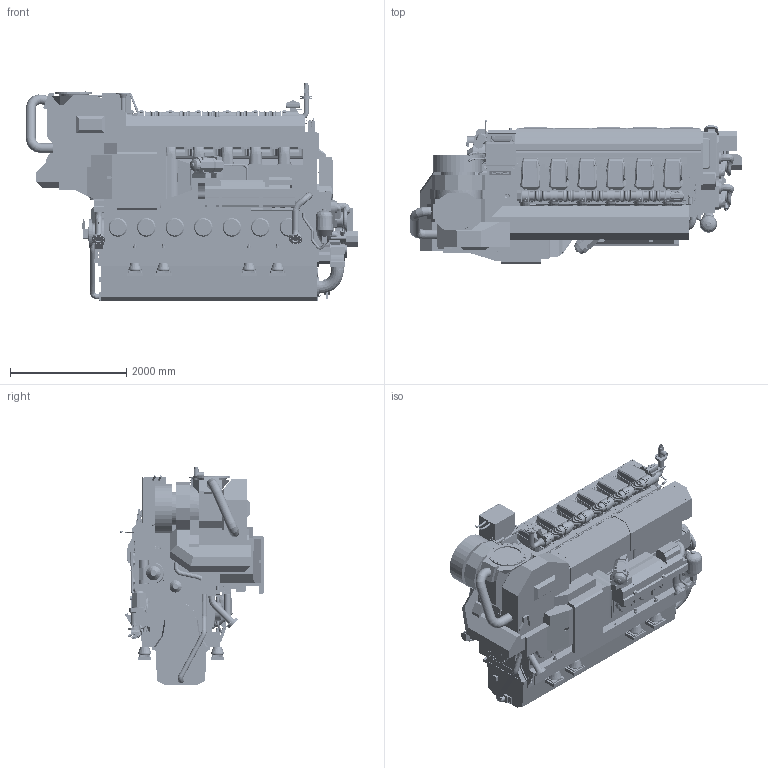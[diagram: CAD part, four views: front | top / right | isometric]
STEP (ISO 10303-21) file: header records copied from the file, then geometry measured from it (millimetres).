
FILE_DESCRIPTION(/* description */ (''),/* implementation_level */ '2;1');
FILE_NAME(/* name */ 'DAAF380534_A.stp',/* time_stamp */ '2021-11-09T13:57:02+02:00',/* author */ (''),/* organization */ (''),/* preprocessor_version */ 'ST-DEVELOPER v16.7',/* originating_system */ 'SIEMENS PLM Software NX 1915',/* authorisation */ '');
FILE_SCHEMA (('AUTOMOTIVE_DESIGN { 1 0 10303 214 3 1 1 1 }'));
Products named in the file (66): PABA065852_-; PABA066964_-; PABA089633_-; PAAF063769_-; PAAF895907_-; PAAF895909_-; PAAF906209_-; PAAF975946_-; PAAF975926_-; PABA181135_-; PAAF694391_-; PAAF624162_-; PAAF619118_-; PAAF619539_-; PAAF619521_-; PAAF906214_-; PAAF909496_-; PAAF909498_-; PAAF620935_-; PAAF616354_-; 0031B006100_K_MODEL; PAAF635310_-; PAAF642271_-; PAAF555086_-; PAAF555085_-; PAAF497278_-; PAAF397145_-; PAAF291916_-; PAAF293701_-; PAAF271372_-; PAAF270351_-; PAAF261807_-; PAAF259772_-; PAAF247479_-; PAAF247485_-; PAAF243367_-; PAAF243503_-; PAAF243746_-; PAAF243671_-; PAAF243686_-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
Assembly tree (115 placements, depth 2):
  PAAF643634_A
    PAAF063630_-
    PAAF078046_-
    PAAF074388_-
    PAAF078074_-
    PAAF078187_-
    PAAF078236_-
    PAAF078241_-
    PAAF093819_-
    PAAF087145_-
    PAAF093493_-
    PAAF068478_-
    PAAF068492_-
    PAAF074909_-
    PAAF159661_-
    PAAF087111_-
    PAAF087114_-
    PAAF090578_-
    PAAF087136_-
    PAAF087122_-
    PAAF093585_-
    PAAF087082_-
    PAAF064319_-
    PAAF238216_-
    PAAF243345_-
    PAAF243622_-
    PAAF243686_-
    PAAF243671_-
    PAAF243746_-
    PAAF243503_-  x11
    PAAF243367_-
    PAAF247485_-
    PAAF247479_-
    PAAF259772_-
    PAAF261807_-
    PAAF270351_-
    PAAF271372_-
    PAAF293701_-  x11
    PAAF291916_-
    PAAF397145_-
    PAAF497278_-
    PAAF555085_-
    PAAF555086_-
    PAAF642271_-  x8
    PAAF635310_-  x8
    0031B006100_K_MODEL  x8
    PAAF616354_-
    PAAF620935_-
    PAAF909498_-
    PAAF909496_-
    PAAF906214_-
    PAAF619521_-
    PAAF619539_-
    PAAF619118_-
    PAAF624162_-
    PAAF694391_-
    PABA181135_-
    PAAF975926_-  x6
    PAAF975946_-  x5
    PAAF906209_-
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Bounding box: 5707.35 x 2472.13 x 3747.5 mm (x, y, z)
Volume: 14009721560.7 mm3; surface area: 205492122.6 mm2
Topology: 233 solids, 240 shells, 10807 faces, 27299 edges, 17615 vertices
Faces by surface type: plane 6200, cylinder 2714, bspline 1296, torus 272, cone 263, extrusion 51, sphere 9, revolution 2
Full cylindrical faces by diameter (mm): 1 x6, 3 x3, 6 x8, 6.2 x64, 8 x28, 9.539 x2, 10.2 x18, 11 x3, 11.908 x1, 12 x6, 13.2 x4, 13.5 x4, 14 x2, 14.5 x1, 15 x12, 15.6 x4, 15.7 x4, 16 x4, 17 x10, 18 x93, 18.5 x2, 20 x1, 20.075 x1, 22 x85, 24 x1, 26 x3, 27 x2, 28 x3, 30 x19, 30.853 x2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
Entity records: 368242 total; most frequent: CARTESIAN_POINT 165576, ORIENTED_EDGE 40530, DIRECTION 38871, EDGE_CURVE 20265, VERTEX_POINT 13501, VECTOR 13097, LINE 13046, AXIS2_PLACEMENT_3D 12886
